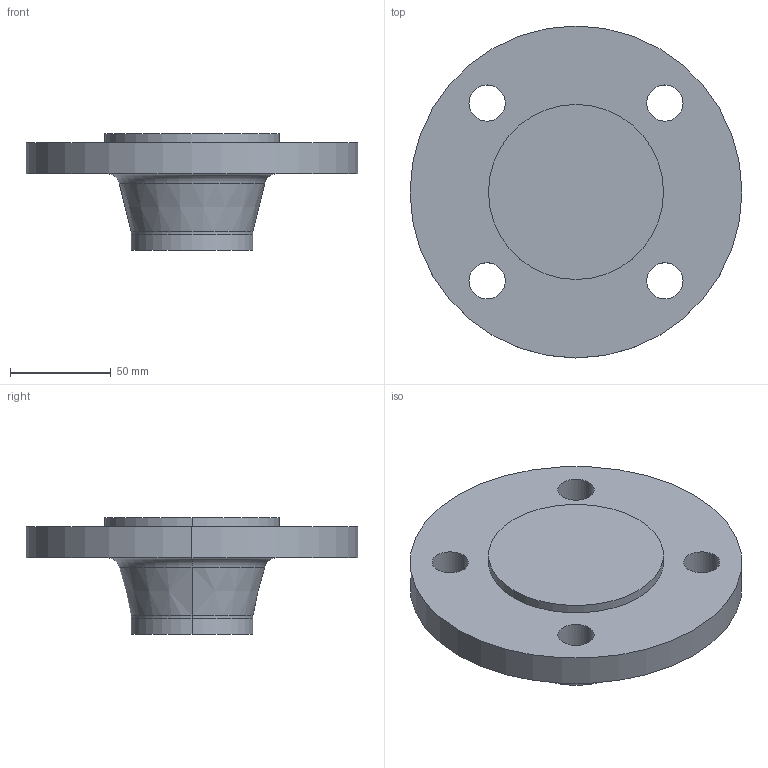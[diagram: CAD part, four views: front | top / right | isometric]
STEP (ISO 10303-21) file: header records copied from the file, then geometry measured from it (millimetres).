
FILE_DESCRIPTION (( 'STEP AP214' ), '1' );
FILE_NAME ('PN40 DN50 Type 21(ii) - Type E Face.STEP', '2018-12-30T03:19:15', ( '' ), ( '' ), 'SwSTEP 2.0', 'SolidWorks 2019', '' );
FILE_SCHEMA (( 'AUTOMOTIVE_DESIGN' ));
Length unit declared in the file: millimetre
Products named in the file (1): PN40 DN50 Type 21(ii) - Type E Face
Bounding box: 165 x 165 x 58 mm (x, y, z)
Volume: 473310.4 mm3; surface area: 59697.6 mm2
Topology: 1 solids, 1 shells, 24 faces, 54 edges, 34 vertices
Faces by surface type: cylinder 14, torus 4, plane 4, cone 2
Entity records: 738 total; most frequent: DIRECTION 142, CARTESIAN_POINT 113, ORIENTED_EDGE 108, AXIS2_PLACEMENT_3D 63, EDGE_CURVE 54, CIRCLE 38, VERTEX_POINT 34, EDGE_LOOP 34
